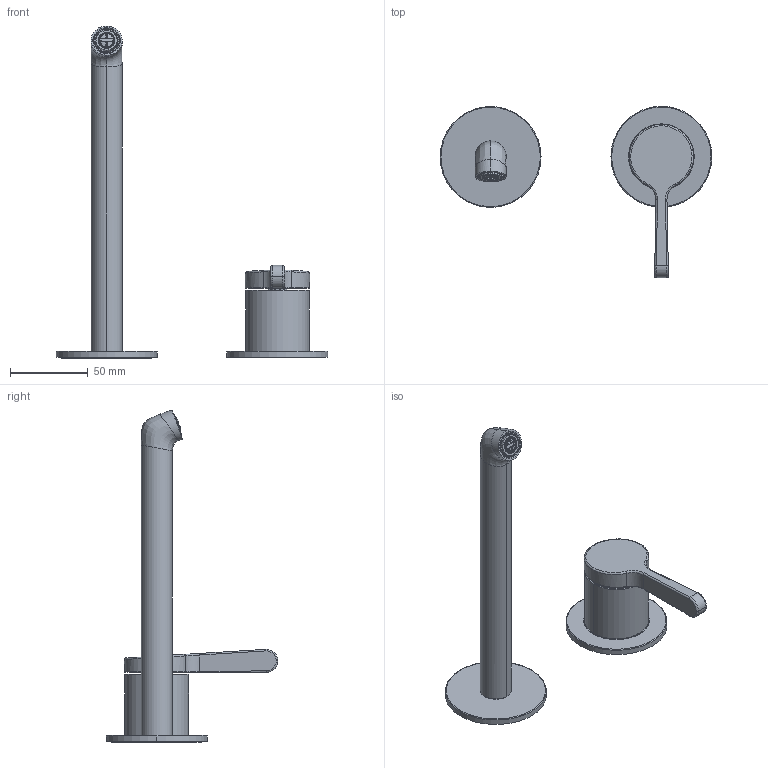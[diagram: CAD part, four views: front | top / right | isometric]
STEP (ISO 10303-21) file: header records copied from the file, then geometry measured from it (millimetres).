
FILE_DESCRIPTION((''),'2;1');
FILE_NAME('SOLO_ESTERNO_SW0001_','2026-01-21T16:44:01',('giacomo.molli'),(''),'CREO PARAMETRIC BY PTC INC, 2025010','CREO PARAMETRIC BY PTC INC, 2025010','');
FILE_SCHEMA(('AUTOMOTIVE_DESIGN { 1 0 10303 214 1 1 1 1 }'));
Products named in the file (1): SOLO_ESTERNO_SW0001_
Bounding box: 175 x 110.5 x 213.82 mm (x, y, z)
Volume: 159226.2 mm3; surface area: 47513.4 mm2
Topology: 2 solids, 5 shells, 2388 faces, 6699 edges, 4440 vertices
Faces by surface type: plane 2189, cylinder 138, bspline 26, torus 25, cone 8, sphere 2
Entity records: 101619 total; most frequent: CARTESIAN_POINT 23378, ORIENTED_EDGE 13398, DIRECTION 11875, EDGE_CURVE 6699, VECTOR 5960, LINE 5960, VERTEX_POINT 4440, AXIS2_PLACEMENT_3D 2956
